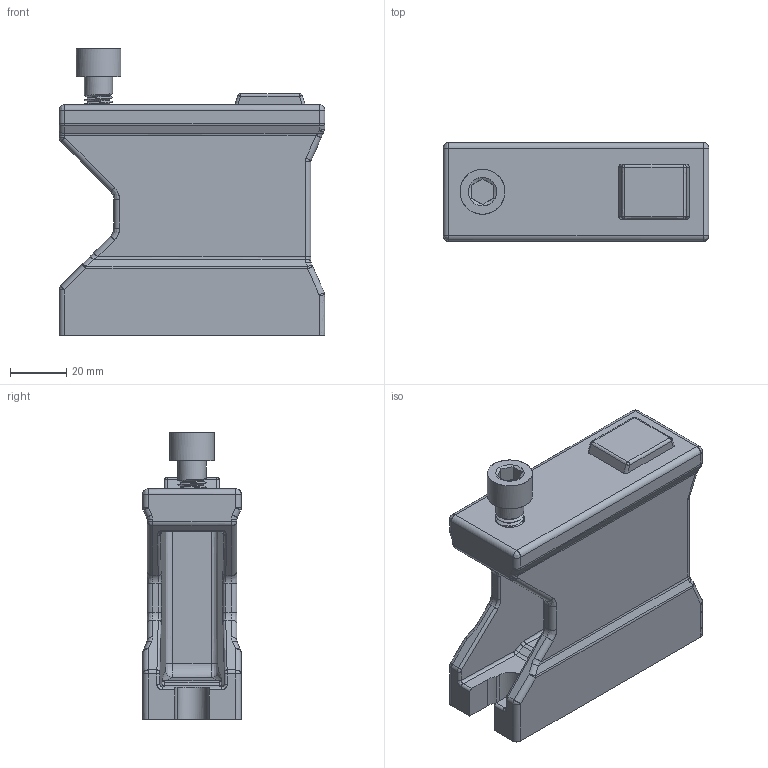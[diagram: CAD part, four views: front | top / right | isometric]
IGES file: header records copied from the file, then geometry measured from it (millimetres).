
Start section: ZWSOFT
Global section: file name: BASO.igs; native system: ZW3D; preprocessor: 1.0; author: ZW3D; organization: ZWSOFT; date: 120705.150331; units: millimetre
Bounding box: 94.5 x 35 x 102 mm (x, y, z)
Surface area: 40379.2 mm2 (no closed solid volume)
Topology: 0 solids, 0 shells, 247 faces, 1135 edges, 1128 vertices
Faces by surface type: bspline 247
